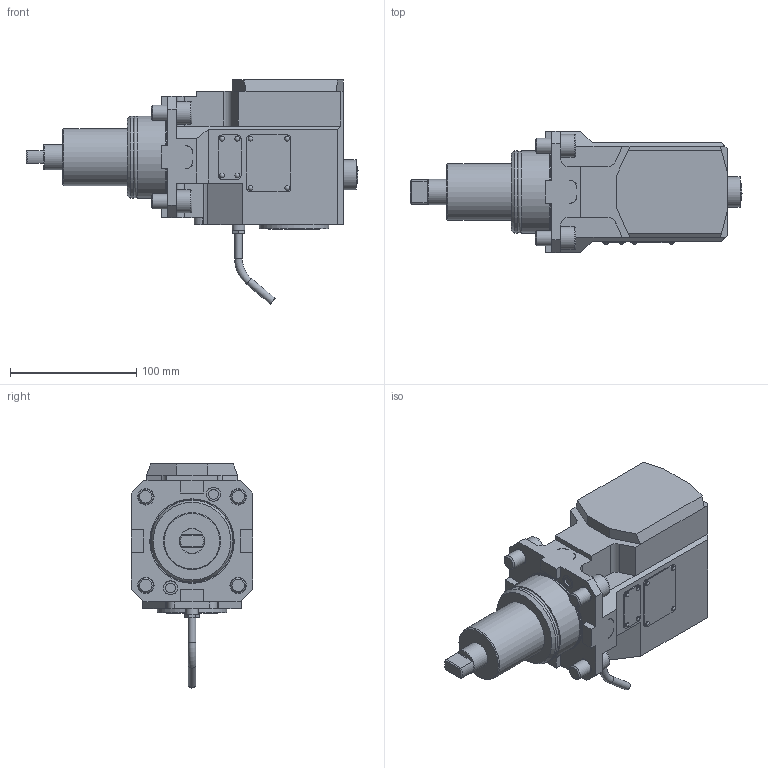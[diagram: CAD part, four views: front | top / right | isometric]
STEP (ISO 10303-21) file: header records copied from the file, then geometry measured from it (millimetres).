
FILE_DESCRIPTION(/* description */ (''),/* implementation_level */ '2;1');
FILE_NAME(/* name */ '197604-UNI',/* time_stamp */ '2022-07-19T10:31:00+02:00',/* author */ (''),/* organization */ (''),/* preprocessor_version */ 'ST-DEVELOPER v16.5',/* originating_system */ 'HiCAD 2017 2201.0 Build 268',/* authorisation */ '');
FILE_SCHEMA (('AUTOMOTIVE_DESIGN { 1 0 10303 214 1 1 1 1 }'));
Length unit declared in the file: millimetre
Products named in the file (2): Root; Teil
Assembly tree (1 placements, depth 2):
  Root
    Teil
Bounding box: 262.5 x 96 x 177.17 mm (x, y, z)
Volume: 1303872.7 mm3; surface area: 113764.1 mm2
Topology: 5 solids, 20 shells, 421 faces, 952 edges, 617 vertices
Faces by surface type: plane 254, cylinder 109, torus 25, cone 23, sphere 8, bspline 2
Full cylindrical faces by diameter (mm): 2.2 x8, 3.141 x4, 4 x2, 6 x2, 7.65 x2, 8.1 x1, 9.6 x1, 10 x1, 11.01 x2, 11.1 x2, 12 x4, 13 x4, 14 x1, 15 x1, 15.4 x2, 16.5 x1, 17.8 x2, 18 x6, 19 x1, 19.6 x1, 20 x2, 24 x1, 31.6 x1, 40 x1, 45 x1, 53 x1, 55 x1, 60.8 x2, 64.5 x1, 64.9 x2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
Entity records: 20735 total; most frequent: CARTESIAN_POINT 3742, DIRECTION 1903, PRESENTATION_STYLE_ASSIGNMENT 1625, DRAUGHTING_PRE_DEFINED_CURVE_FONT 1624, CURVE_STYLE 1624, OVER_RIDING_STYLED_ITEM 1624, ORIENTED_EDGE 1624, COLOUR_RGB 1602
